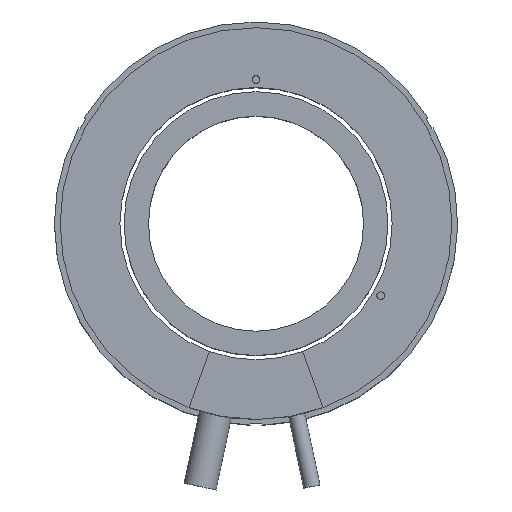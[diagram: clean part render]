
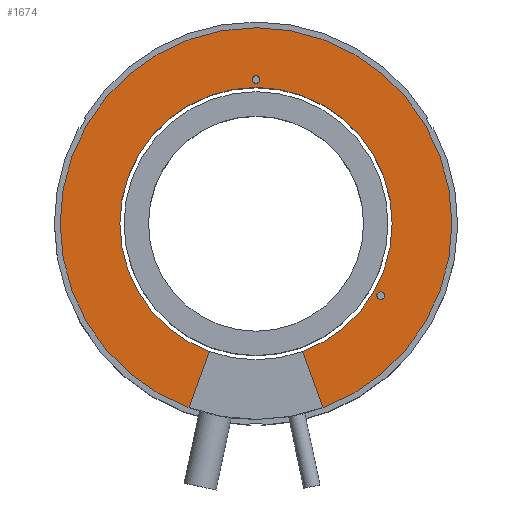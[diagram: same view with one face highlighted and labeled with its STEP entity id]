
A CAD part, top view. The second image highlights one B-rep face of the part: STEP entity #1674.
In plain terms, the highlighted planar face has unit normal (0, 0, 1).
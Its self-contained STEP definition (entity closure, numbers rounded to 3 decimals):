
#12 = CIRCLE ( 'NONE', #98, 35.45 ) ;
#14 = CARTESIAN_POINT ( 'NONE',  ( 10.826, 41.779, 86.525 ) ) ;
#15 = CIRCLE ( 'NONE', #1317, 35.45 ) ;
#29 = CARTESIAN_POINT ( 'NONE',  ( 44.301, 23.029, 86.525 ) ) ;
#56 = CIRCLE ( 'NONE', #479, 51. ) ;
#72 = CIRCLE ( 'NONE', #243, 1. ) ;
#91 = DIRECTION ( 'NONE',  ( -0.342, -0.94, 0. ) ) ;
#98 = AXIS2_PLACEMENT_3D ( 'NONE', #664, #1109, #939 ) ;
#103 = ORIENTED_EDGE ( 'NONE', *, *, #1717, .T. ) ;
#112 = EDGE_CURVE ( 'NONE', #804, #1265, #1518, .T. ) ;
#119 = CARTESIAN_POINT ( 'NONE',  ( 46.276, 41.779, 86.525 ) ) ;
#131 = DIRECTION ( 'NONE',  ( 0., 0., 1. ) ) ;
#149 = CARTESIAN_POINT ( 'NONE',  ( -6.617, -6.145, 86.525 ) ) ;
#195 = EDGE_CURVE ( 'NONE', #771, #1699, #56, .T. ) ;
#227 = CARTESIAN_POINT ( 'NONE',  ( 43.301, 23.029, 86.525 ) ) ;
#243 = AXIS2_PLACEMENT_3D ( 'NONE', #565, #1303, #1283 ) ;
#271 = AXIS2_PLACEMENT_3D ( 'NONE', #1588, #350, #1459 ) ;
#308 = ORIENTED_EDGE ( 'NONE', *, *, #195, .T. ) ;
#325 = DIRECTION ( 'NONE',  ( 1., 0., 0. ) ) ;
#337 = CIRCLE ( 'NONE', #1211, 35.45 ) ;
#350 = DIRECTION ( 'NONE',  ( 0., 0., 1. ) ) ;
#370 = DIRECTION ( 'NONE',  ( -0.342, 0.94, 0. ) ) ;
#389 = ORIENTED_EDGE ( 'NONE', *, *, #1249, .F. ) ;
#398 = CARTESIAN_POINT ( 'NONE',  ( -24.624, 41.779, 86.525 ) ) ;
#411 = EDGE_CURVE ( 'NONE', #1265, #804, #714, .T. ) ;
#433 = ORIENTED_EDGE ( 'NONE', *, *, #112, .F. ) ;
#446 = DIRECTION ( 'NONE',  ( 0., 0., 1. ) ) ;
#447 = ORIENTED_EDGE ( 'NONE', *, *, #934, .F. ) ;
#472 = VECTOR ( 'NONE', #91, 1000. ) ;
#479 = AXIS2_PLACEMENT_3D ( 'NONE', #1403, #1142, #718 ) ;
#480 = AXIS2_PLACEMENT_3D ( 'NONE', #1201, #1706, #1049 ) ;
#487 = VERTEX_POINT ( 'NONE', #1620 ) ;
#506 = EDGE_CURVE ( 'NONE', #863, #1176, #337, .T. ) ;
#520 = ORIENTED_EDGE ( 'NONE', *, *, #1438, .F. ) ;
#522 = CARTESIAN_POINT ( 'NONE',  ( 10.826, 79.279, 86.525 ) ) ;
#525 = VERTEX_POINT ( 'NONE', #29 ) ;
#536 = DIRECTION ( 'NONE',  ( 0., 0., 1. ) ) ;
#557 = DIRECTION ( 'NONE',  ( 0., 0., 1. ) ) ;
#565 = CARTESIAN_POINT ( 'NONE',  ( 43.301, 23.029, 86.525 ) ) ;
#575 = CARTESIAN_POINT ( 'NONE',  ( 42.301, 23.029, 86.525 ) ) ;
#588 = FACE_OUTER_BOUND ( 'NONE', #1584, .T. ) ;
#618 = ORIENTED_EDGE ( 'NONE', *, *, #1001, .T. ) ;
#626 = ORIENTED_EDGE ( 'NONE', *, *, #411, .F. ) ;
#632 = CARTESIAN_POINT ( 'NONE',  ( 61.826, 41.779, 86.525 ) ) ;
#660 = EDGE_CURVE ( 'NONE', #837, #487, #916, .T. ) ;
#662 = EDGE_CURVE ( 'NONE', #525, #1237, #778, .T. ) ;
#664 = CARTESIAN_POINT ( 'NONE',  ( 10.826, 41.779, 86.525 ) ) ;
#677 = ORIENTED_EDGE ( 'NONE', *, *, #662, .F. ) ;
#714 = CIRCLE ( 'NONE', #271, 1. ) ;
#718 = DIRECTION ( 'NONE',  ( 1., 0., 0. ) ) ;
#759 = DIRECTION ( 'NONE',  ( 0., 0., 1. ) ) ;
#771 = VERTEX_POINT ( 'NONE', #632 ) ;
#778 = CIRCLE ( 'NONE', #1763, 1. ) ;
#797 = AXIS2_PLACEMENT_3D ( 'NONE', #1688, #446, #999 ) ;
#804 = VERTEX_POINT ( 'NONE', #1373 ) ;
#837 = VERTEX_POINT ( 'NONE', #1223 ) ;
#849 = CARTESIAN_POINT ( 'NONE',  ( 9.826, 79.279, 86.525 ) ) ;
#853 = DIRECTION ( 'NONE',  ( 1., 0., 0. ) ) ;
#863 = VERTEX_POINT ( 'NONE', #398 ) ;
#868 = AXIS2_PLACEMENT_3D ( 'NONE', #1125, #759, #325 ) ;
#895 = ORIENTED_EDGE ( 'NONE', *, *, #660, .F. ) ;
#899 = CARTESIAN_POINT ( 'NONE',  ( -1.299, 8.467, 86.525 ) ) ;
#916 = LINE ( 'NONE', #1310, #1548 ) ;
#928 = VERTEX_POINT ( 'NONE', #119 ) ;
#934 = EDGE_CURVE ( 'NONE', #487, #928, #12, .T. ) ;
#939 = DIRECTION ( 'NONE',  ( 1., 0., 0. ) ) ;
#999 = DIRECTION ( 'NONE',  ( 1., 0., 0. ) ) ;
#1001 = EDGE_CURVE ( 'NONE', #1699, #1616, #1566, .T. ) ;
#1048 = DIRECTION ( 'NONE',  ( 0., 0., 1. ) ) ;
#1049 = DIRECTION ( 'NONE',  ( 1., 0., 0. ) ) ;
#1098 = EDGE_LOOP ( 'NONE', ( #677, #389 ) ) ;
#1109 = DIRECTION ( 'NONE',  ( 0., 0., 1. ) ) ;
#1125 = CARTESIAN_POINT ( 'NONE',  ( 46.276, 41.779, 86.525 ) ) ;
#1131 = LINE ( 'NONE', #899, #472 ) ;
#1142 = DIRECTION ( 'NONE',  ( 0., 0., 1. ) ) ;
#1145 = ORIENTED_EDGE ( 'NONE', *, *, #1350, .F. ) ;
#1162 = PLANE ( 'NONE',  #868 ) ;
#1176 = VERTEX_POINT ( 'NONE', #1368 ) ;
#1201 = CARTESIAN_POINT ( 'NONE',  ( 10.826, 41.779, 86.525 ) ) ;
#1211 = AXIS2_PLACEMENT_3D ( 'NONE', #1530, #557, #853 ) ;
#1223 = CARTESIAN_POINT ( 'NONE',  ( 28.269, -6.145, 86.525 ) ) ;
#1237 = VERTEX_POINT ( 'NONE', #575 ) ;
#1249 = EDGE_CURVE ( 'NONE', #1237, #525, #72, .T. ) ;
#1265 = VERTEX_POINT ( 'NONE', #849 ) ;
#1274 = FACE_BOUND ( 'NONE', #1391, .T. ) ;
#1283 = DIRECTION ( 'NONE',  ( 1., 0., 0. ) ) ;
#1294 = CARTESIAN_POINT ( 'NONE',  ( -40.174, 41.779, 86.525 ) ) ;
#1303 = DIRECTION ( 'NONE',  ( 0., 0., 1. ) ) ;
#1310 = CARTESIAN_POINT ( 'NONE',  ( 22.95, 8.467, 86.525 ) ) ;
#1317 = AXIS2_PLACEMENT_3D ( 'NONE', #14, #131, #1642 ) ;
#1328 = CIRCLE ( 'NONE', #480, 51. ) ;
#1330 = ORIENTED_EDGE ( 'NONE', *, *, #506, .F. ) ;
#1350 = EDGE_CURVE ( 'NONE', #1176, #1616, #1131, .T. ) ;
#1354 = DIRECTION ( 'NONE',  ( 1., 0., 0. ) ) ;
#1368 = CARTESIAN_POINT ( 'NONE',  ( -1.299, 8.467, 86.525 ) ) ;
#1373 = CARTESIAN_POINT ( 'NONE',  ( 11.826, 79.279, 86.525 ) ) ;
#1391 = EDGE_LOOP ( 'NONE', ( #433, #626 ) ) ;
#1403 = CARTESIAN_POINT ( 'NONE',  ( 10.826, 41.779, 86.525 ) ) ;
#1438 = EDGE_CURVE ( 'NONE', #928, #863, #15, .T. ) ;
#1459 = DIRECTION ( 'NONE',  ( 1., 0., 0. ) ) ;
#1518 = CIRCLE ( 'NONE', #1740, 1. ) ;
#1530 = CARTESIAN_POINT ( 'NONE',  ( 10.826, 41.779, 86.525 ) ) ;
#1548 = VECTOR ( 'NONE', #370, 1000. ) ;
#1566 = CIRCLE ( 'NONE', #797, 51. ) ;
#1584 = EDGE_LOOP ( 'NONE', ( #895, #103, #308, #618, #1145, #1330, #520, #447 ) ) ;
#1588 = CARTESIAN_POINT ( 'NONE',  ( 10.826, 79.279, 86.525 ) ) ;
#1590 = DIRECTION ( 'NONE',  ( 1., 0., 0. ) ) ;
#1616 = VERTEX_POINT ( 'NONE', #149 ) ;
#1620 = CARTESIAN_POINT ( 'NONE',  ( 22.95, 8.467, 86.525 ) ) ;
#1642 = DIRECTION ( 'NONE',  ( 1., 0., 0. ) ) ;
#1674 = ADVANCED_FACE ( 'NONE', ( #1682, #1274, #588 ), #1162, .T. ) ;
#1682 = FACE_BOUND ( 'NONE', #1098, .T. ) ;
#1688 = CARTESIAN_POINT ( 'NONE',  ( 10.826, 41.779, 86.525 ) ) ;
#1699 = VERTEX_POINT ( 'NONE', #1294 ) ;
#1706 = DIRECTION ( 'NONE',  ( 0., 0., 1. ) ) ;
#1717 = EDGE_CURVE ( 'NONE', #837, #771, #1328, .T. ) ;
#1740 = AXIS2_PLACEMENT_3D ( 'NONE', #522, #536, #1354 ) ;
#1763 = AXIS2_PLACEMENT_3D ( 'NONE', #227, #1048, #1590 ) ;
